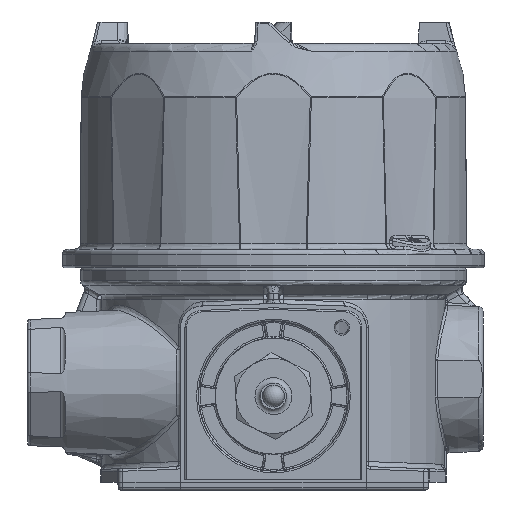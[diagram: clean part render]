
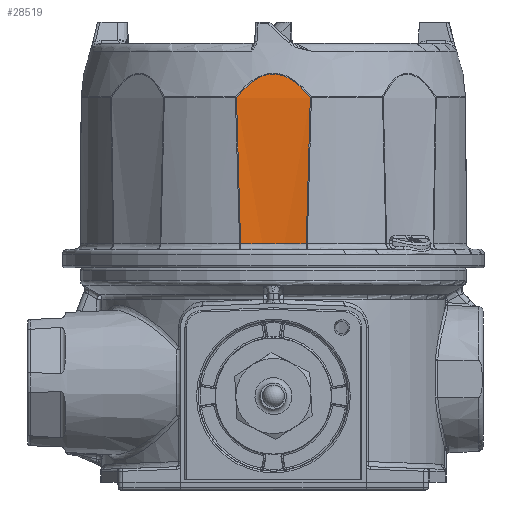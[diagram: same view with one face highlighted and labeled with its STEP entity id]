
A CAD part, front view. The second image highlights one B-rep face of the part: STEP entity #28519.
In plain terms, the highlighted conical face has half-angle 0.5 degrees and reference radius 83.16 mm.
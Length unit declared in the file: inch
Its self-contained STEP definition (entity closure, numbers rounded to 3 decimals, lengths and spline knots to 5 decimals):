
#1677 = VERTEX_POINT ( 'NONE', #48604 ) ;
#5713 = CARTESIAN_POINT ( 'NONE',  ( -0.38208, -2.2461, 1.77434 ) ) ;
#5954 = CARTESIAN_POINT ( 'NONE',  ( -0.38207, -2.24611, 1.77405 ) ) ;
#7602 = CARTESIAN_POINT ( 'NONE',  ( 0.22595, -2.21481, 3.67063 ) ) ;
#7853 = VERTEX_POINT ( 'NONE', #61779 ) ;
#8461 = CARTESIAN_POINT ( 'NONE',  ( 0.42941, -2.23711, 3.47216 ) ) ;
#8650 = CARTESIAN_POINT ( 'NONE',  ( 0.05421, -2.20685, 3.74265 ) ) ;
#9705 = CARTESIAN_POINT ( 'NONE',  ( -0.17008, -2.21112, 3.7039 ) ) ;
#10049 = CARTESIAN_POINT ( 'NONE',  ( -0.40219, -2.2332, 3.50658 ) ) ;
#10864 = CIRCLE ( 'NONE', #38184, 3.25367 ) ;
#11136 = CARTESIAN_POINT ( 'NONE',  ( 0.38206, -2.24611, 1.77345 ) ) ;
#12791 = VERTEX_POINT ( 'NONE', #53750 ) ;
#13580 = CARTESIAN_POINT ( 'NONE',  ( 0.38206, -2.24611, 1.77345 ) ) ;
#14864 = CARTESIAN_POINT ( 'NONE',  ( -0.4145, -2.24011, 2.9062 ) ) ;
#15074 = CARTESIAN_POINT ( 'NONE',  ( -0.42941, -2.23711, 3.47216 ) ) ;
#16459 = CARTESIAN_POINT ( 'NONE',  ( -0.10939, -2.2083, 3.72951 ) ) ;
#18216 = EDGE_CURVE ( 'NONE', #12791, #1677, #65801, .T. ) ;
#19008 = CARTESIAN_POINT ( 'NONE',  ( 0.08653, -2.20755, 3.73632 ) ) ;
#19282 = CARTESIAN_POINT ( 'NONE',  ( 0.38207, -2.24611, 1.77405 ) ) ;
#19357 = EDGE_LOOP ( 'NONE', ( #22415, #39558, #60704, #21111, #39399, #43051 ) ) ;
#20414 = CARTESIAN_POINT ( 'NONE',  ( -0.28008, -2.21921, 3.63108 ) ) ;
#21102 = CARTESIAN_POINT ( 'NONE',  ( 0.02129, -2.20643, 3.74641 ) ) ;
#21111 = ORIENTED_EDGE ( 'NONE', *, *, #18216, .T. ) ;
#22415 = ORIENTED_EDGE ( 'NONE', *, *, #60020, .T. ) ;
#23986 = CARTESIAN_POINT ( 'NONE',  ( 0.40211, -2.23319, 3.50668 ) ) ;
#24606 = CARTESIAN_POINT ( 'NONE',  ( 0.38206, -2.24611, 1.77375 ) ) ;
#26799 = CARTESIAN_POINT ( 'NONE',  ( 0.01011, -2.20638, 3.74694 ) ) ;
#28519 = ADVANCED_FACE ( 'NONE', ( #63418 ), #40171, .F. ) ;
#30384 = CARTESIAN_POINT ( 'NONE',  ( 0.04332, -2.20667, 3.74426 ) ) ;
#30625 = DIRECTION ( 'NONE',  ( 0., 1., 0. ) ) ;
#30746 = CARTESIAN_POINT ( 'NONE',  ( 0.27897, -2.21911, 3.63197 ) ) ;
#31598 = CARTESIAN_POINT ( 'NONE',  ( -0.42941, -2.23711, 3.47216 ) ) ;
#33363 = AXIS2_PLACEMENT_3D ( 'NONE', #57720, #52034, #30625 ) ;
#35037 = CARTESIAN_POINT ( 'NONE',  ( 0.14896, -2.20999, 3.71413 ) ) ;
#35552 = CARTESIAN_POINT ( 'NONE',  ( 0.38208, -2.2461, 1.77434 ) ) ;
#36444 = CARTESIAN_POINT ( 'NONE',  ( 0.42941, -2.23711, 3.47216 ) ) ;
#36790 = CARTESIAN_POINT ( 'NONE',  ( -0.15039, -2.21007, 3.71348 ) ) ;
#37131 = CARTESIAN_POINT ( 'NONE',  ( -0.37362, -2.22946, 3.53965 ) ) ;
#38184 = AXIS2_PLACEMENT_3D ( 'NONE', #52147, #61429, #56439 ) ;
#39083 = CARTESIAN_POINT ( 'NONE',  ( -0.38206, -2.24611, 1.77375 ) ) ;
#39399 = ORIENTED_EDGE ( 'NONE', *, *, #51989, .T. ) ;
#39430 = CARTESIAN_POINT ( 'NONE',  ( -0.38206, -2.24611, 1.77345 ) ) ;
#39558 = ORIENTED_EDGE ( 'NONE', *, *, #44949, .T. ) ;
#39969 = CARTESIAN_POINT ( 'NONE',  ( 0.38208, -2.2461, 1.77434 ) ) ;
#40171 = CONICAL_SURFACE ( 'NONE', #33363, 3.274, 0.009 ) ;
#41586 = CARTESIAN_POINT ( 'NONE',  ( -0.39883, -2.24311, 2.34026 ) ) ;
#42843 = CARTESIAN_POINT ( 'NONE',  ( -0.02303, -2.20639, 3.74685 ) ) ;
#43051 = ORIENTED_EDGE ( 'NONE', *, *, #62572, .T. ) ;
#43554 = CARTESIAN_POINT ( 'NONE',  ( -0.20819, -2.21352, 3.68227 ) ) ;
#44949 = EDGE_CURVE ( 'NONE', #60964, #58794, #50568, .T. ) ;
#45751 = CARTESIAN_POINT ( 'NONE',  ( 0.31159, -2.22237, 3.60279 ) ) ;
#46440 = CARTESIAN_POINT ( 'NONE',  ( 0.37332, -2.22942, 3.54001 ) ) ;
#46605 = CARTESIAN_POINT ( 'NONE',  ( 0.39883, -2.24311, 2.34026 ) ) ;
#46959 = CARTESIAN_POINT ( 'NONE',  ( -0.38208, -2.2461, 1.77434 ) ) ;
#48200 = B_SPLINE_CURVE_WITH_KNOTS ( 'NONE', 3,
 ( #31598, #14864, #41586, #46959 ),
 .UNSPECIFIED., .F., .F.,
 ( 4, 4 ),
 ( 0., 0.04314 ),
 .UNSPECIFIED. ) ;
#48604 = CARTESIAN_POINT ( 'NONE',  ( -0.42941, -2.23711, 3.47216 ) ) ;
#50568 = B_SPLINE_CURVE_WITH_KNOTS ( 'NONE', 3,
 ( #13580, #24606, #19282, #39969 ),
 .UNSPECIFIED., .F., .F.,
 ( 4, 4 ),
 ( 0., 0.00002 ),
 .UNSPECIFIED. ) ;
#51085 = CARTESIAN_POINT ( 'NONE',  ( 0.20759, -2.21348, 3.68265 ) ) ;
#51248 = CARTESIAN_POINT ( 'NONE',  ( 0.4145, -2.24011, 2.9062 ) ) ;
#51450 = CARTESIAN_POINT ( 'NONE',  ( 0.10761, -2.20823, 3.7301 ) ) ;
#51989 = EDGE_CURVE ( 'NONE', #1677, #66000, #48200, .T. ) ;
#52034 = DIRECTION ( 'NONE',  ( 0., 0., 1. ) ) ;
#52147 = CARTESIAN_POINT ( 'NONE',  ( 0., -5.47727, 1.77345 ) ) ;
#52833 = CARTESIAN_POINT ( 'NONE',  ( -0.31254, -2.22247, 3.60188 ) ) ;
#53750 = CARTESIAN_POINT ( 'NONE',  ( 0.42941, -2.23711, 3.47216 ) ) ;
#55813 = CARTESIAN_POINT ( 'NONE',  ( -0.38208, -2.2461, 1.77434 ) ) ;
#56439 = DIRECTION ( 'NONE',  ( 0., 1., 0. ) ) ;
#57720 = CARTESIAN_POINT ( 'NONE',  ( 0., -5.47727, 4.103 ) ) ;
#58186 = CARTESIAN_POINT ( 'NONE',  ( -0.04485, -2.20664, 3.74458 ) ) ;
#58794 = VERTEX_POINT ( 'NONE', #65982 ) ;
#60020 = EDGE_CURVE ( 'NONE', #7853, #60964, #10864, .T. ) ;
#60704 = ORIENTED_EDGE ( 'NONE', *, *, #68123, .T. ) ;
#60964 = VERTEX_POINT ( 'NONE', #11136 ) ;
#61429 = DIRECTION ( 'NONE',  ( 0., 0., -1. ) ) ;
#61779 = CARTESIAN_POINT ( 'NONE',  ( -0.38206, -2.24611, 1.77345 ) ) ;
#62457 = B_SPLINE_CURVE_WITH_KNOTS ( 'NONE', 3,
 ( #35552, #46605, #51248, #8461 ),
 .UNSPECIFIED., .F., .F.,
 ( 4, 4 ),
 ( 0., 0.04314 ),
 .UNSPECIFIED. ) ;
#62572 = EDGE_CURVE ( 'NONE', #66000, #7853, #66447, .T. ) ;
#63418 = FACE_OUTER_BOUND ( 'NONE', #19357, .T. ) ;
#64575 = CARTESIAN_POINT ( 'NONE',  ( -0.08794, -2.20759, 3.73595 ) ) ;
#65801 = B_SPLINE_CURVE_WITH_KNOTS ( 'NONE', 3,
 ( #36444, #23986, #46440, #45751, #30746, #7602, #51085, #68155, #35037, #51450, #19008, #8650, #30384, #21102, #26799, #42843, #58186, #64575, #16459, #36790, #9705, #43554, #69566, #20414, #52833, #37131, #10049, #15074 ),
 .UNSPECIFIED., .F., .F.,
 ( 4, 2, 2, 2, 2, 2, 2, 2, 2, 2, 2, 2, 2, 4 ),
 ( 0., 0.00336, 0.00673, 0.00841, 0.01009, 0.01177, 0.01261, 0.01345, 0.01514, 0.01682, 0.0185, 0.02018, 0.02355, 0.02691 ),
 .UNSPECIFIED. ) ;
#65982 = CARTESIAN_POINT ( 'NONE',  ( 0.38208, -2.2461, 1.77434 ) ) ;
#66000 = VERTEX_POINT ( 'NONE', #5713 ) ;
#66447 = B_SPLINE_CURVE_WITH_KNOTS ( 'NONE', 3,
 ( #55813, #5954, #39083, #39430 ),
 .UNSPECIFIED., .F., .F.,
 ( 4, 4 ),
 ( 0., 0.00002 ),
 .UNSPECIFIED. ) ;
#68123 = EDGE_CURVE ( 'NONE', #58794, #12791, #62457, .T. ) ;
#68155 = CARTESIAN_POINT ( 'NONE',  ( 0.16907, -2.21107, 3.70443 ) ) ;
#69566 = CARTESIAN_POINT ( 'NONE',  ( -0.22665, -2.21486, 3.67016 ) ) ;
